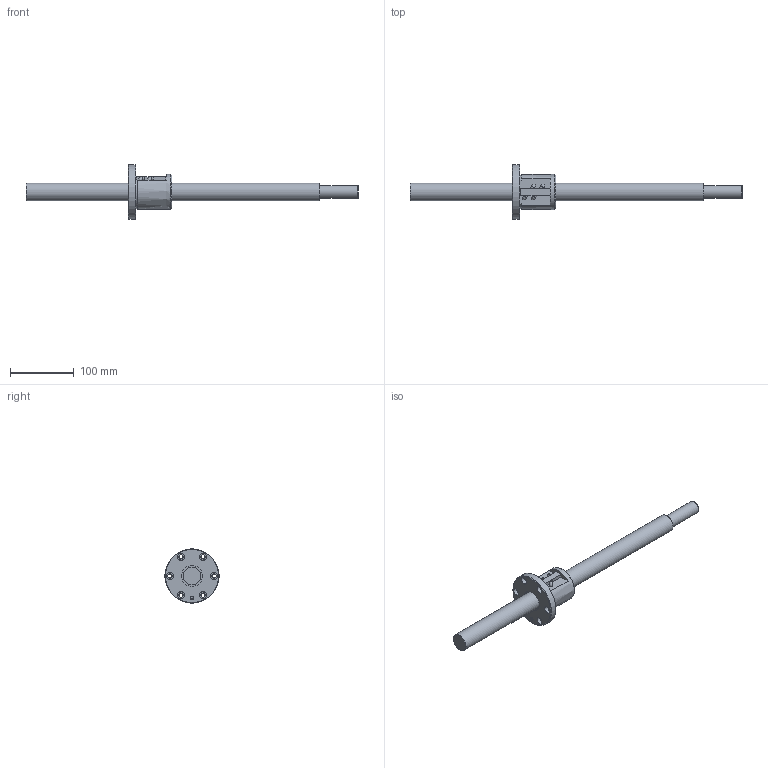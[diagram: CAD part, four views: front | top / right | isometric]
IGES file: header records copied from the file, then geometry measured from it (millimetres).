
Start section: Data from Parasolid IGES Translator 26.0.171, Copyright(c) 2006 Siemens PLM Software. All Rights Reserved.
Global section: file name: BIF2806-5RRG0+520LC5A(00).igs; native system: By Siemens PLM Incorporated; preprocessor: XPlus GENERIC/IGES 26.0.171; author: Noname; organization: Noname; date: 20240715.072823; units: millimetre
Bounding box: 520 x 85 x 85 mm (x, y, z)
Surface area: 77653.7 mm2 (no closed solid volume)
Topology: 0 solids, 0 shells, 87 faces, 412 edges, 379 vertices
Faces by surface type: revolution 59, extrusion 28
